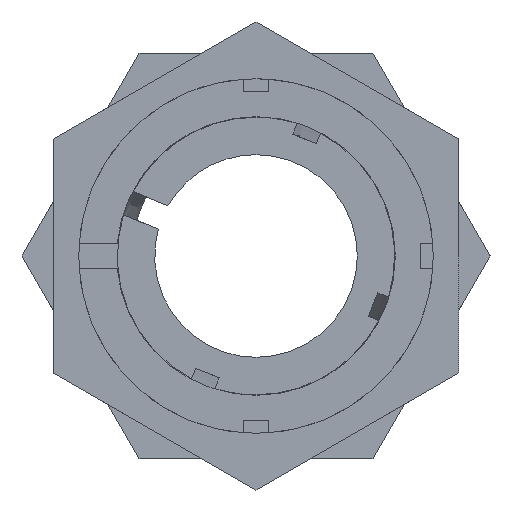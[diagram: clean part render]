
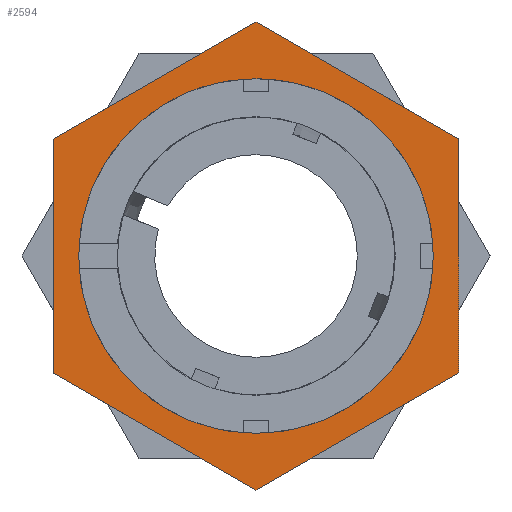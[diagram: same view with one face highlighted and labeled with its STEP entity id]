
A CAD part, left-side view. The second image highlights one B-rep face of the part: STEP entity #2594.
In plain terms, the highlighted planar face has unit normal (-1, 0, 0).
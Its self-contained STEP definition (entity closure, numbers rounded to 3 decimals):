
#322 = LINE ( 'NONE', #1442, #2008 ) ;
#408 = CARTESIAN_POINT ( 'NONE',  ( 11.52, 0., -7.001 ) ) ;
#409 = CARTESIAN_POINT ( 'NONE',  ( 11.52, 0., 7.001 ) ) ;
#415 = CARTESIAN_POINT ( 'NONE',  ( 11.52, 0., 9.238 ) ) ;
#417 = CARTESIAN_POINT ( 'NONE',  ( 11.52, 8., 4.619 ) ) ;
#419 = CARTESIAN_POINT ( 'NONE',  ( 11.52, 8., -4.619 ) ) ;
#423 = CARTESIAN_POINT ( 'NONE',  ( 11.52, 0., -9.238 ) ) ;
#425 = CARTESIAN_POINT ( 'NONE',  ( 11.52, -8., -4.619 ) ) ;
#426 = CARTESIAN_POINT ( 'NONE',  ( 11.52, -8., 4.619 ) ) ;
#617 = CARTESIAN_POINT ( 'NONE',  ( 11.52, 50., 0. ) ) ;
#618 = PLANE ( 'NONE',  #1230 ) ;
#620 = DIRECTION ( 'NONE',  ( 1., 0., 0. ) ) ;
#621 = DIRECTION ( 'NONE',  ( 0., 0., -1. ) ) ;
#939 = EDGE_CURVE ( 'NONE', #1510, #1514, #322, .T. ) ;
#947 = EDGE_CURVE ( 'NONE', #1499, #1500, #2025, .T. ) ;
#951 = EDGE_CURVE ( 'NONE', #1508, #1510, #2027, .T. ) ;
#952 = EDGE_CURVE ( 'NONE', #1516, #1517, #2032, .T. ) ;
#953 = EDGE_CURVE ( 'NONE', #1514, #1516, #2034, .T. ) ;
#954 = EDGE_CURVE ( 'NONE', #1500, #1499, #2038, .T. ) ;
#955 = EDGE_CURVE ( 'NONE', #1506, #1508, #2024, .T. ) ;
#956 = EDGE_CURVE ( 'NONE', #1517, #1506, #2039, .T. ) ;
#1110 = AXIS2_PLACEMENT_3D ( 'NONE', #1425, #1424, #1423 ) ;
#1155 = AXIS2_PLACEMENT_3D ( 'NONE', #1413, #1407, #1406 ) ;
#1230 = AXIS2_PLACEMENT_3D ( 'NONE', #617, #620, #621 ) ;
#1402 = DIRECTION ( 'NONE',  ( 0., 0.866, 0.5 ) ) ;
#1403 = CARTESIAN_POINT ( 'NONE',  ( 11.52, 0., 9.238 ) ) ;
#1404 = DIRECTION ( 'NONE',  ( 0., 0.866, -0.5 ) ) ;
#1405 = CARTESIAN_POINT ( 'NONE',  ( 11.52, 8., 4.619 ) ) ;
#1406 = DIRECTION ( 'NONE',  ( 0., 0., 1. ) ) ;
#1407 = DIRECTION ( 'NONE',  ( -1., 0., 0. ) ) ;
#1408 = DIRECTION ( 'NONE',  ( 0., -0.866, 0.5 ) ) ;
#1409 = CARTESIAN_POINT ( 'NONE',  ( 11.52, -8., -4.619 ) ) ;
#1410 = DIRECTION ( 'NONE',  ( 0., 0., 1. ) ) ;
#1411 = CARTESIAN_POINT ( 'NONE',  ( 11.52, -8., 4.619 ) ) ;
#1412 = DIRECTION ( 'NONE',  ( 0., 0., -1. ) ) ;
#1413 = CARTESIAN_POINT ( 'NONE',  ( 11.52, 0., 0. ) ) ;
#1416 = CARTESIAN_POINT ( 'NONE',  ( 11.52, 8., -4.619 ) ) ;
#1423 = DIRECTION ( 'NONE',  ( 0., 0., 1. ) ) ;
#1424 = DIRECTION ( 'NONE',  ( -1., 0., 0. ) ) ;
#1425 = CARTESIAN_POINT ( 'NONE',  ( 11.52, 0., 0. ) ) ;
#1439 = DIRECTION ( 'NONE',  ( 0., -0.866, -0.5 ) ) ;
#1442 = CARTESIAN_POINT ( 'NONE',  ( 11.52, 0., -9.238 ) ) ;
#1499 = VERTEX_POINT ( 'NONE', #408 ) ;
#1500 = VERTEX_POINT ( 'NONE', #409 ) ;
#1506 = VERTEX_POINT ( 'NONE', #415 ) ;
#1508 = VERTEX_POINT ( 'NONE', #417 ) ;
#1510 = VERTEX_POINT ( 'NONE', #419 ) ;
#1514 = VERTEX_POINT ( 'NONE', #423 ) ;
#1516 = VERTEX_POINT ( 'NONE', #425 ) ;
#1517 = VERTEX_POINT ( 'NONE', #426 ) ;
#1660 = ORIENTED_EDGE ( 'NONE', *, *, #954, .F. ) ;
#1661 = ORIENTED_EDGE ( 'NONE', *, *, #947, .F. ) ;
#1662 = ORIENTED_EDGE ( 'NONE', *, *, #955, .T. ) ;
#1663 = ORIENTED_EDGE ( 'NONE', *, *, #951, .T. ) ;
#1664 = ORIENTED_EDGE ( 'NONE', *, *, #939, .T. ) ;
#1665 = ORIENTED_EDGE ( 'NONE', *, *, #953, .T. ) ;
#1666 = ORIENTED_EDGE ( 'NONE', *, *, #952, .T. ) ;
#1667 = ORIENTED_EDGE ( 'NONE', *, *, #956, .T. ) ;
#1816 = EDGE_LOOP ( 'NONE', ( #1662, #1663, #1664, #1665, #1666, #1667 ) ) ;
#1819 = EDGE_LOOP ( 'NONE', ( #1660, #1661 ) ) ;
#2008 = VECTOR ( 'NONE', #1439, 1000. ) ;
#2024 = LINE ( 'NONE', #1405, #2026 ) ;
#2025 = CIRCLE ( 'NONE', #1110, 7.001 ) ;
#2026 = VECTOR ( 'NONE', #1404, 1000. ) ;
#2027 = LINE ( 'NONE', #1416, #2030 ) ;
#2030 = VECTOR ( 'NONE', #1412, 1000. ) ;
#2032 = LINE ( 'NONE', #1411, #2033 ) ;
#2033 = VECTOR ( 'NONE', #1410, 1000. ) ;
#2034 = LINE ( 'NONE', #1409, #2035 ) ;
#2035 = VECTOR ( 'NONE', #1408, 1000. ) ;
#2038 = CIRCLE ( 'NONE', #1155, 7.001 ) ;
#2039 = LINE ( 'NONE', #1403, #2040 ) ;
#2040 = VECTOR ( 'NONE', #1402, 1000. ) ;
#2402 = FACE_BOUND ( 'NONE', #1819, .T. ) ;
#2407 = FACE_OUTER_BOUND ( 'NONE', #1816, .T. ) ;
#2594 = ADVANCED_FACE ( 'NONE', ( #2402, #2407 ), #618, .F. ) ;
